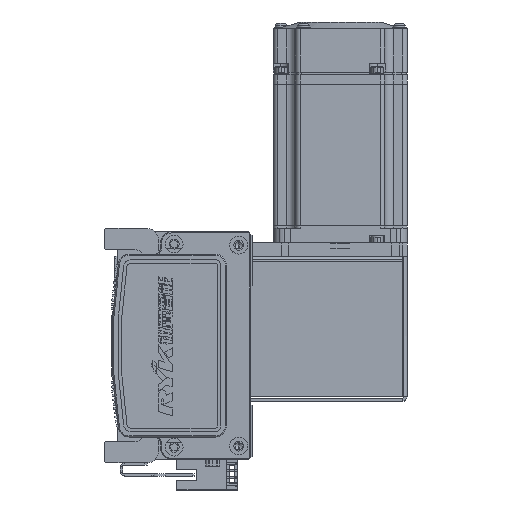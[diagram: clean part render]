
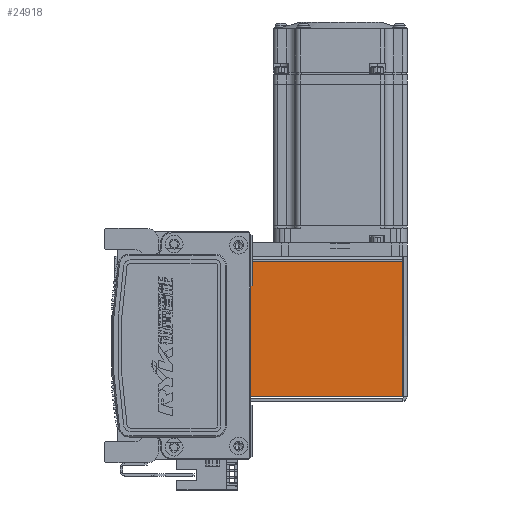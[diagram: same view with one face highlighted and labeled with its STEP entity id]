
A CAD part, left-side view. The second image highlights one B-rep face of the part: STEP entity #24918.
In plain terms, the highlighted planar face has unit normal (-1, 0, 0) as drawn and (0, 0, 1) by its records, which use the part's own axes.
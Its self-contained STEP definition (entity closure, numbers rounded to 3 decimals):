
#632 = CARTESIAN_POINT ( 'NONE',  ( -30.293, 0., 35. ) ) ;
#901 = VECTOR ( 'NONE', #66590, 1000. ) ;
#2330 = VERTEX_POINT ( 'NONE', #54127 ) ;
#5227 = CARTESIAN_POINT ( 'NONE',  ( 30.263, 0.737, 35. ) ) ;
#8538 = EDGE_CURVE ( 'NONE', #8730, #2330, #48081, .T. ) ;
#8730 = VERTEX_POINT ( 'NONE', #32321 ) ;
#11706 = EDGE_CURVE ( 'NONE', #25840, #2330, #18067, .T. ) ;
#14158 = AXIS2_PLACEMENT_3D ( 'NONE', #56441, #28811, #45570 ) ;
#14956 = VECTOR ( 'NONE', #39941, 1000. ) ;
#17936 = PLANE ( 'NONE',  #14158 ) ;
#18067 = LINE ( 'NONE', #632, #32490 ) ;
#19326 = VECTOR ( 'NONE', #61489, 1000. ) ;
#23902 = CARTESIAN_POINT ( 'NONE',  ( 0., 72.5, 35. ) ) ;
#24918 = ADVANCED_FACE ( 'NONE', ( #66046 ), #17936, .F. ) ;
#25840 = VERTEX_POINT ( 'NONE', #43122 ) ;
#26462 = ORIENTED_EDGE ( 'NONE', *, *, #11706, .F. ) ;
#27603 = DIRECTION ( 'NONE',  ( 0., 1., 0. ) ) ;
#28811 = DIRECTION ( 'NONE',  ( 0., 0., -1. ) ) ;
#29176 = VERTEX_POINT ( 'NONE', #5227 ) ;
#29286 = CARTESIAN_POINT ( 'NONE',  ( 30.263, 0.737, 35. ) ) ;
#29320 = ORIENTED_EDGE ( 'NONE', *, *, #67484, .T. ) ;
#31907 = LINE ( 'NONE', #29286, #14956 ) ;
#32321 = CARTESIAN_POINT ( 'NONE',  ( 30.263, 72.5, 35. ) ) ;
#32490 = VECTOR ( 'NONE', #27603, 1000. ) ;
#35554 = EDGE_CURVE ( 'NONE', #29176, #25840, #56716, .T. ) ;
#36946 = EDGE_LOOP ( 'NONE', ( #29320, #37152, #26462, #64783 ) ) ;
#37152 = ORIENTED_EDGE ( 'NONE', *, *, #8538, .T. ) ;
#39941 = DIRECTION ( 'NONE',  ( 0., 1., 0. ) ) ;
#43122 = CARTESIAN_POINT ( 'NONE',  ( -30.293, 0.737, 35. ) ) ;
#45570 = DIRECTION ( 'NONE',  ( -1., 0., 0. ) ) ;
#48081 = LINE ( 'NONE', #23902, #19326 ) ;
#54127 = CARTESIAN_POINT ( 'NONE',  ( -30.293, 72.5, 35. ) ) ;
#56193 = CARTESIAN_POINT ( 'NONE',  ( -32.5, 0.737, 35. ) ) ;
#56441 = CARTESIAN_POINT ( 'NONE',  ( 0., 0., 35. ) ) ;
#56716 = LINE ( 'NONE', #56193, #901 ) ;
#61489 = DIRECTION ( 'NONE',  ( -1., 0., 0. ) ) ;
#64783 = ORIENTED_EDGE ( 'NONE', *, *, #35554, .F. ) ;
#66046 = FACE_OUTER_BOUND ( 'NONE', #36946, .T. ) ;
#66590 = DIRECTION ( 'NONE',  ( -1., 0., 0. ) ) ;
#67484 = EDGE_CURVE ( 'NONE', #29176, #8730, #31907, .T. ) ;
